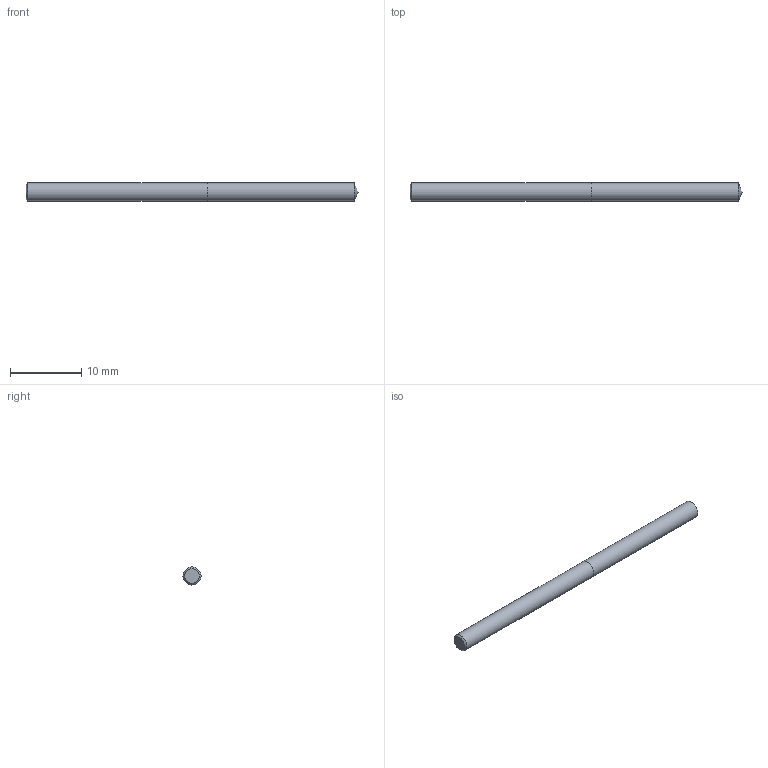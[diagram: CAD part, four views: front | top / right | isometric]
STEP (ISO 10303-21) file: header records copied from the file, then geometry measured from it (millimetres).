
FILE_DESCRIPTION (( 'STEP AP214' ), '1' );
FILE_NAME ('03-2381.STEP', '2022-06-03T07:00:17', ( 'USER' ), ( '' ), 'SwSTEP 2.0', 'SolidWorks 2018', '' );
FILE_SCHEMA (( 'AUTOMOTIVE_DESIGN' ));
Length unit declared in the file: inch
Products named in the file (1): 03-2381
Bounding box: 46.56 x 2.53 x 2.53 mm (x, y, z)
Volume: 231.6 mm3; surface area: 384.7 mm2
Topology: 2 solids, 2 shells, 7 faces, 11 edges, 7 vertices
Faces by surface type: plane 3, cylinder 2, cone 2
Full cylindrical faces by diameter (mm): 2.527 x2
Entity records: 214 total; most frequent: DIRECTION 26, CARTESIAN_POINT 18, AXIS2_PLACEMENT_3D 13, ORIENTED_EDGE 10, EDGE_LOOP 10, FACE_OUTER_BOUND 9, DIMENSIONAL_EXPONENTS 7, LENGTH_MEASURE_WITH_UNIT 7
